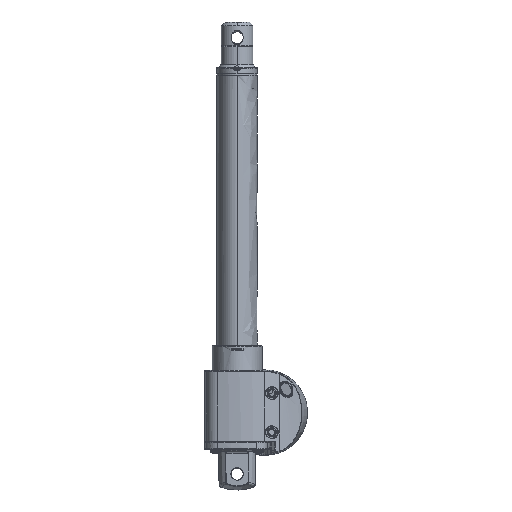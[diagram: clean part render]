
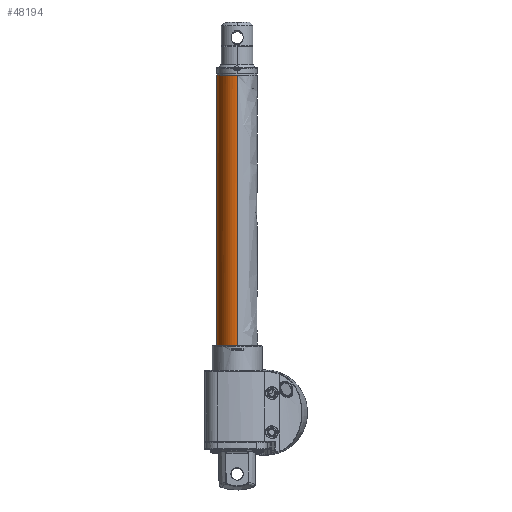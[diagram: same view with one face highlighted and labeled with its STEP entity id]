
A CAD part, left-side view. The second image highlights one B-rep face of the part: STEP entity #48194.
In plain terms, the highlighted free-form (B-spline) face has degree [3, 1] with [4, 2] control points.
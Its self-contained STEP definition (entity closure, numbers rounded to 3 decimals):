
#421 =( BOUNDED_SURFACE ( )  B_SPLINE_SURFACE ( 3, 1, ( 
 ( #42079, #73857 ),
 ( #86531, #26200 ),
 ( #56642, #26849 ),
 ( #58598, #87185 ) ),
 .UNSPECIFIED., .F., .F., .F. ) 
 B_SPLINE_SURFACE_WITH_KNOTS ( ( 4, 4 ),
 ( 2, 2 ),
 ( 0., 1. ),
 ( 0., 1. ),
 .UNSPECIFIED. ) 
 GEOMETRIC_REPRESENTATION_ITEM ( )  RATIONAL_B_SPLINE_SURFACE ( (
 ( 1., 1.),
 ( 0.534, 0.534),
 ( 0.534, 0.534),
 ( 1., 1.) ) ) 
 REPRESENTATION_ITEM ( '' )  SURFACE ( )  );
#12106 = CARTESIAN_POINT ( 'NONE',  ( 0.961, 0.377, 11.024 ) ) ;
#12444 = CARTESIAN_POINT ( 'NONE',  ( -0.78, 0., 11.024 ) ) ;
#14725 = CARTESIAN_POINT ( 'NONE',  ( -0.78, 0.783, 0.866 ) ) ;
#19771 = ORIENTED_EDGE ( 'NONE', *, *, #68939, .F. ) ;
#21921 = ORIENTED_EDGE ( 'NONE', *, *, #27929, .F. ) ;
#25276 = VECTOR ( 'NONE', #78640, 39.37 ) ;
#26200 = CARTESIAN_POINT ( 'NONE',  ( -0.78, 0.783, 11.024 ) ) ;
#26849 = CARTESIAN_POINT ( 'NONE',  ( 0.307, 1.018, 11.024 ) ) ;
#26979 = CARTESIAN_POINT ( 'NONE',  ( -0.78, 0.783, 11.024 ) ) ;
#27929 = EDGE_CURVE ( 'NONE', #133298, #172788, #72531, .T. ) ;
#29345 = CARTESIAN_POINT ( 'NONE',  ( -0.78, 0., 0.866 ) ) ;
#30673 = ORIENTED_EDGE ( 'NONE', *, *, #57199, .F. ) ;
#31679 = VERTEX_POINT ( 'NONE', #74527 ) ;
#33829 = DIRECTION ( 'NONE',  ( 0., 0., -1. ) ) ;
#33913 = CARTESIAN_POINT ( 'NONE',  ( 0.961, 0.377, 0.866 ) ) ;
#39559 = LINE ( 'NONE', #123111, #25276 ) ;
#42079 = CARTESIAN_POINT ( 'NONE',  ( -0.78, 0., 0.866 ) ) ;
#48194 = ADVANCED_FACE ( 'NONE', ( #116198 ), #421, .F. ) ;
#56642 = CARTESIAN_POINT ( 'NONE',  ( 0.307, 1.018, 0.866 ) ) ;
#57199 = EDGE_CURVE ( 'NONE', #172788, #31679, #170457, .T. ) ;
#58078 = CARTESIAN_POINT ( 'NONE',  ( 0.961, 0.377, 11.024 ) ) ;
#58357 = VERTEX_POINT ( 'NONE', #12106 ) ;
#58598 = CARTESIAN_POINT ( 'NONE',  ( 0.961, 0.377, 0.866 ) ) ;
#68939 = EDGE_CURVE ( 'NONE', #58357, #133298, #103485, .T. ) ;
#72531 = LINE ( 'NONE', #124673, #89115 ) ;
#73352 = CARTESIAN_POINT ( 'NONE',  ( 0.307, 1.018, 11.024 ) ) ;
#73857 = CARTESIAN_POINT ( 'NONE',  ( -0.78, 0., 11.024 ) ) ;
#74527 = CARTESIAN_POINT ( 'NONE',  ( 0.961, 0.377, 0.866 ) ) ;
#78640 = DIRECTION ( 'NONE',  ( 0., 0., 1. ) ) ;
#83313 = ORIENTED_EDGE ( 'NONE', *, *, #114235, .F. ) ;
#86531 = CARTESIAN_POINT ( 'NONE',  ( -0.78, 0.783, 0.866 ) ) ;
#87185 = CARTESIAN_POINT ( 'NONE',  ( 0.961, 0.377, 11.024 ) ) ;
#89115 = VECTOR ( 'NONE', #33829, 39.37 ) ;
#103485 =( BOUNDED_CURVE ( )  B_SPLINE_CURVE ( 3, ( #58078, #73352, #26979, #163655 ),
 .UNSPECIFIED., .F., .F. ) 
 B_SPLINE_CURVE_WITH_KNOTS ( ( 4, 4 ),
 ( 0., 0.054 ),
 .UNSPECIFIED. ) 
 CURVE ( )  GEOMETRIC_REPRESENTATION_ITEM ( )  RATIONAL_B_SPLINE_CURVE ( ( 1., 0.534, 0.534, 1. ) ) 
 REPRESENTATION_ITEM ( '' )  );
#114235 = EDGE_CURVE ( 'NONE', #31679, #58357, #39559, .T. ) ;
#114249 = EDGE_LOOP ( 'NONE', ( #21921, #19771, #83313, #30673 ) ) ;
#116198 = FACE_OUTER_BOUND ( 'NONE', #114249, .T. ) ;
#123111 = CARTESIAN_POINT ( 'NONE',  ( 0.961, 0.377, 5.945 ) ) ;
#124673 = CARTESIAN_POINT ( 'NONE',  ( -0.78, 0., 5.945 ) ) ;
#133298 = VERTEX_POINT ( 'NONE', #12444 ) ;
#136093 = CARTESIAN_POINT ( 'NONE',  ( 0.307, 1.018, 0.866 ) ) ;
#142821 = CARTESIAN_POINT ( 'NONE',  ( -0.78, 0., 0.866 ) ) ;
#163655 = CARTESIAN_POINT ( 'NONE',  ( -0.78, 0., 11.024 ) ) ;
#170457 =( BOUNDED_CURVE ( )  B_SPLINE_CURVE ( 3, ( #29345, #14725, #136093, #33913 ),
 .UNSPECIFIED., .F., .F. ) 
 B_SPLINE_CURVE_WITH_KNOTS ( ( 4, 4 ),
 ( 0., 0.054 ),
 .UNSPECIFIED. ) 
 CURVE ( )  GEOMETRIC_REPRESENTATION_ITEM ( )  RATIONAL_B_SPLINE_CURVE ( ( 1., 0.534, 0.534, 1. ) ) 
 REPRESENTATION_ITEM ( '' )  );
#172788 = VERTEX_POINT ( 'NONE', #142821 ) ;
